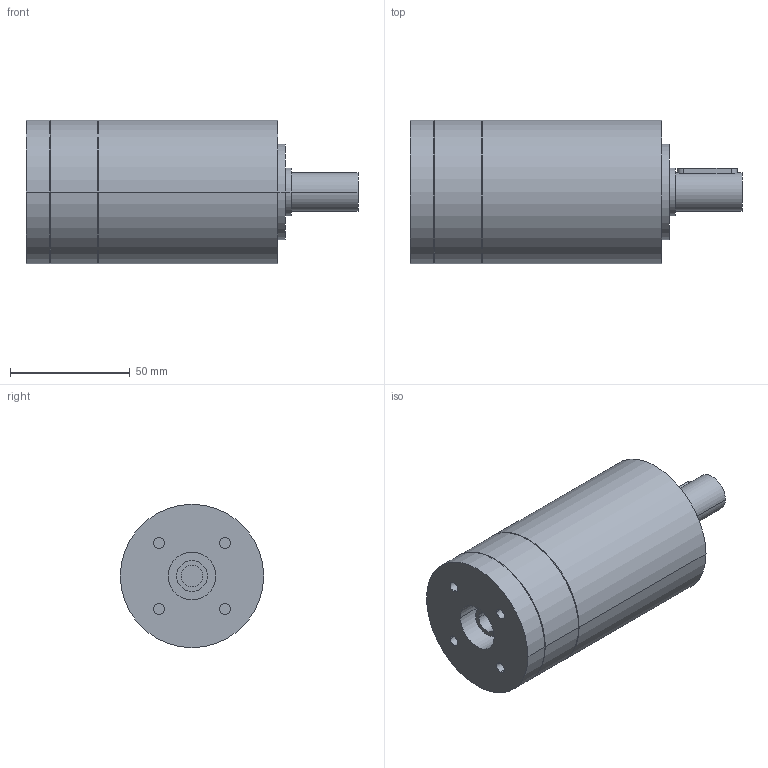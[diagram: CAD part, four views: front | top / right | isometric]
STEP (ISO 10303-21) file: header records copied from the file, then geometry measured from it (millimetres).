
FILE_DESCRIPTION(('CoCreate Modeling STEP Export'),'2;1');
FILE_NAME('GPR75_ig-9-12-16-20-24-30-36_16_B14_9_P14.stp','2014-08-25T16:07:22',(''),(''),'CoCreate Modeling STEP processor for AP214 (Solid Model)','CoCreate Modeling 16.00C 25-Feb-2009 (C) Parametric Technology GmbH','');
FILE_SCHEMA(('AUTOMOTIVE_DESIGN { 1 0 10303 214 1 1 1 1 }'));
Length unit declared in the file: millimetre
Products named in the file (2): GPR75_ig-9-12-16-20-24-30-36_16_B14_9_P14
Assembly tree (1 placements, depth 2):
  GPR75_ig-9-12-16-20-24-30-36_16_B14_9_P14
    GPR75_ig-9-12-16-20-24-30-36_16_B14_9_P14
Bounding box: 138.9 x 60 x 60 mm (x, y, z)
Volume: 302423.3 mm3; surface area: 30954.6 mm2
Topology: 1 solids, 1 shells, 77 faces, 198 edges, 142 vertices
Faces by surface type: cylinder 46, plane 25, cone 6
Entity records: 1976 total; most frequent: ORIENTED_EDGE 392, CARTESIAN_POINT 362, DIRECTION 254, EDGE_CURVE 196, VERTEX_POINT 142, AXIS2_PLACEMENT_3D 98, EDGE_LOOP 98, FACE_OUTER_BOUND 77
